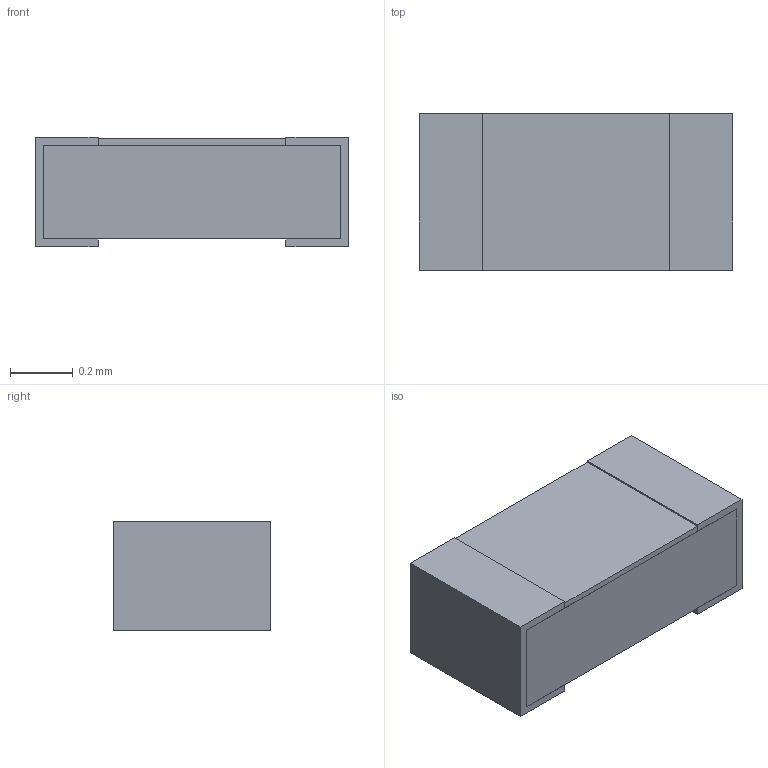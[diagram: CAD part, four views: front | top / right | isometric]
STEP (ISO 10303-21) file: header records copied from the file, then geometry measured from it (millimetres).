
FILE_DESCRIPTION(('STEP AP203'), '1');
FILE_NAME('P1-8B-0402', '', ('UNSPECIFIED'), ('UNSPECIFIED'), 'ASCON STEP Converter 1.6', 'ASCON Math Kernel', '');
FILE_SCHEMA(('CONFIG_CONTROL_DESIGN'));
Length unit declared in the file: millimetre
Bounding box: 1 x 0.5 x 0.35 mm (x, y, z)
Volume: 0.2 mm3; surface area: 4 mm2
Topology: 4 solids, 5 shells, 51 faces, 123 edges, 82 vertices
Faces by surface type: plane 47, cylinder 4
Entity records: 1937 total; most frequent: CARTESIAN_POINT 257, ORIENTED_EDGE 246, DIRECTION 235, EDGE_CURVE 123, LINE 115, VECTOR 115, VERTEX_POINT 82, AXIS2_PLACEMENT_3D 60
